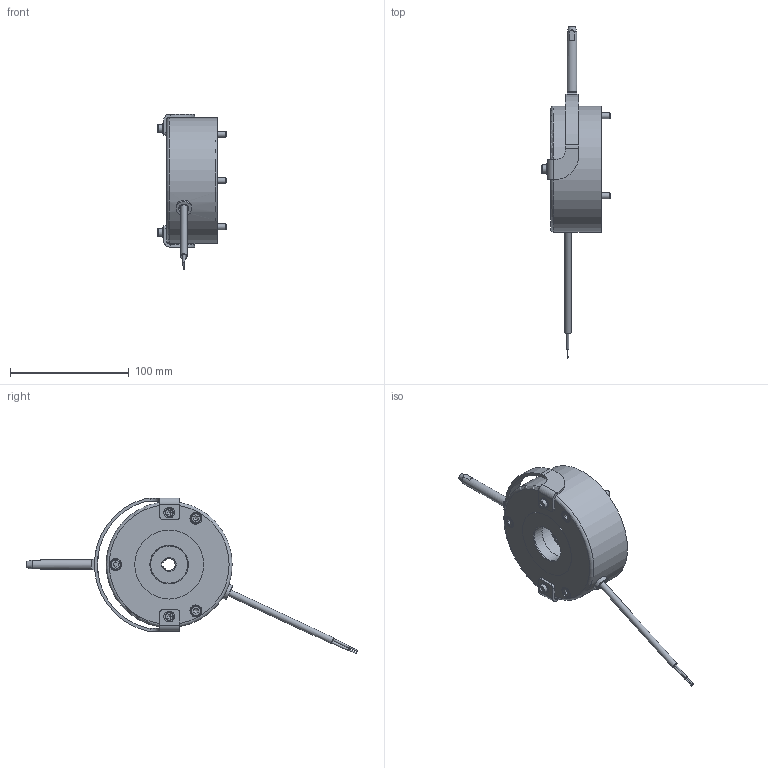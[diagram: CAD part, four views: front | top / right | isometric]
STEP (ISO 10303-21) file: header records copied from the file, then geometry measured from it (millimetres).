
FILE_DESCRIPTION(/* description */ (''),/* implementation_level */ '2;1');
FILE_NAME(/* name */ 'C:\SapWorkDir\Inventor\IP1\ConvertTempPath\5028611_IPT_000.ipt.stp',/* time_stamp */ '2020-09-10T14:02:20+02:00',/* author */ ('STRATE'),/* organization */ (''),/* preprocessor_version */ 'ST-DEVELOPER v17',/* originating_system */ 'Autodesk Inventor 2018',/* authorisation */ '');
FILE_SCHEMA (('AUTOMOTIVE_DESIGN { 1 0 10303 214 3 1 1 }'));
Length unit declared in the file: millimetre
Products named in the file (1): 5028611
Bounding box: 57.3 x 279.42 x 131.24 mm (x, y, z)
Volume: 333935.9 mm3; surface area: 85090.2 mm2
Topology: 3 solids, 3 shells, 500 faces, 1373 edges, 928 vertices
Faces by surface type: cylinder 301, plane 147, cone 37, torus 15
Full cylindrical faces by diameter (mm): 1 x2, 1.85 x2, 2.2 x1, 4 x4, 4.134 x1, 4.3 x2, 5 x3, 5.3 x1, 5.5 x2, 5.9 x3, 6 x2, 6.3 x2, 6.6 x1, 7 x2, 7.2 x2, 7.5 x2, 8 x1, 8.5 x5, 8.9 x3, 9 x4, 10 x3, 13.2 x1, 32 x1, 41.5 x1, 42 x1, 55.5 x2, 56.1 x2, 58 x1, 76.5 x1, 96.8 x1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
Entity records: 17546 total; most frequent: CARTESIAN_POINT 4155, ORIENTED_EDGE 2742, DIRECTION 2638, EDGE_CURVE 1371, AXIS2_PLACEMENT_3D 1062, VERTEX_POINT 928, EDGE_LOOP 585, CIRCLE 561
